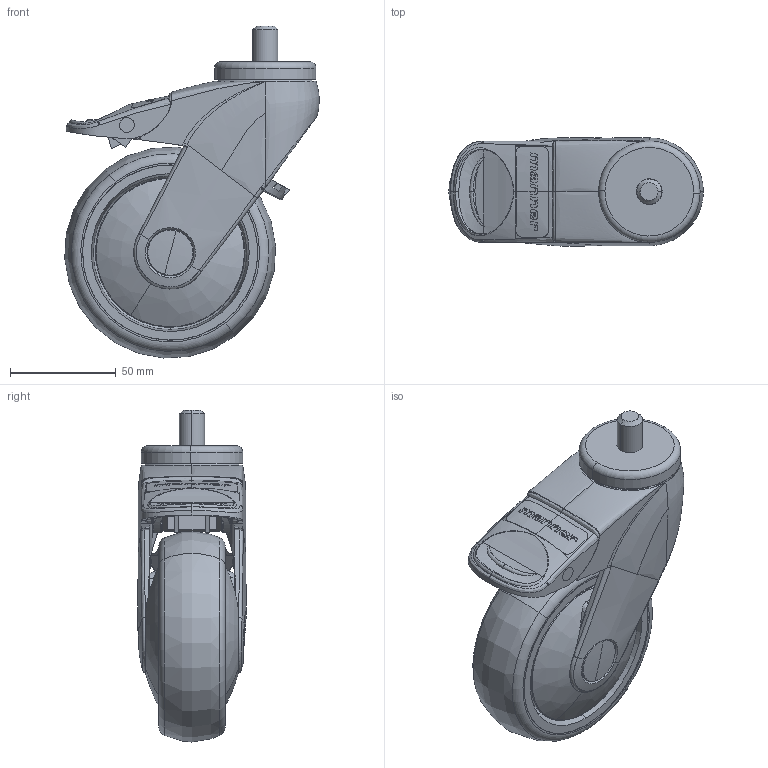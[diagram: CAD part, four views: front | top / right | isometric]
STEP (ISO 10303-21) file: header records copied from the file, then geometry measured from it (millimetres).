
FILE_DESCRIPTION (( 'STEP AP203' ), '1' );
FILE_NAME ('301776_STEP.STEP', '2011-06-20T06:15:57', ( '' ), ( '' ), 'SwSTEP 2.0', 'SolidWorks 2011', '' );
FILE_SCHEMA (( 'CONFIG_CONTROL_DESIGN' ));
Length unit declared in the file: millimetre
Products named in the file (1): 301776_STEP
Bounding box: 120.48 x 51.27 x 157.16 mm (x, y, z)
Surface area: 90451.2 mm2 (no closed solid volume)
Topology: 0 solids, 30 shells, 617 faces, 3268 edges, 2588 vertices
Faces by surface type: bspline 320, plane 136, cylinder 95, cone 38, torus 28
Entity records: 82424 total; most frequent: CARTESIAN_POINT 62529, ORIENTED_EDGE 5432, EDGE_CURVE 3257, VERTEX_POINT 2588, B_SPLINE_CURVE_WITH_KNOTS 2221, DIRECTION 1822, EDGE_LOOP 640, AXIS2_PLACEMENT_3D 627
